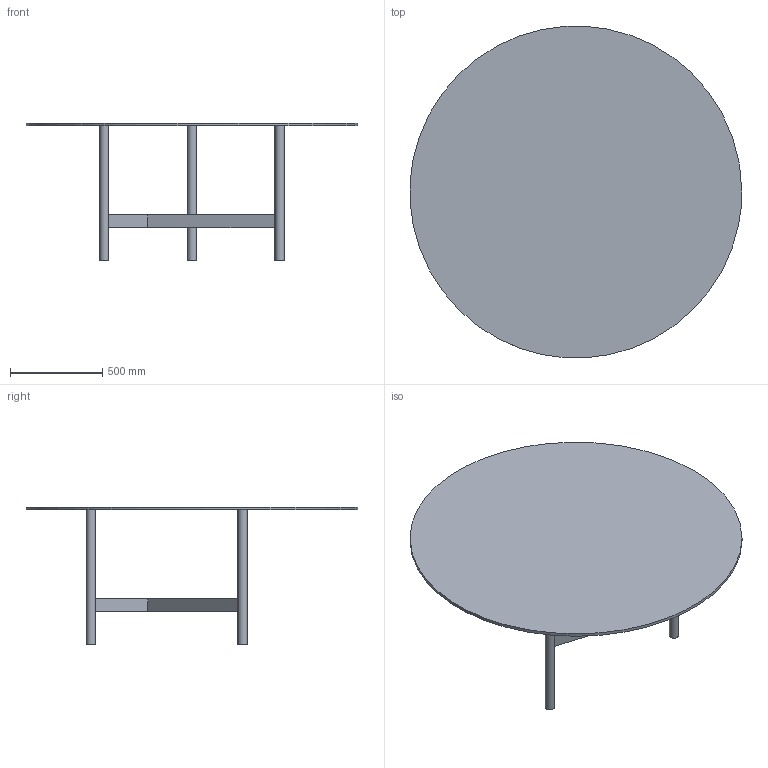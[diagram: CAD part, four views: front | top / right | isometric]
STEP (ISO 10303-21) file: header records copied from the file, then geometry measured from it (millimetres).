
FILE_DESCRIPTION(/* description */ (''),/* implementation_level */ '2;1');
FILE_NAME(/* name */ 'AGOS-D~1',/* time_stamp */ '2022-10-18T18:20:27+02:00',/* author */ (''),/* organization */ (''),/* preprocessor_version */ 'ST-DEVELOPER v16.5',/* originating_system */ '',/* authorisation */ '');
FILE_SCHEMA (('AUTOMOTIVE_DESIGN'));
Length unit declared in the file: millimetre
Products named in the file (1): Document
Bounding box: 1798.29 x 1796.6 x 748.15 mm (x, y, z)
Volume: 48463746.7 mm3; surface area: 5937049.2 mm2
Topology: 5 solids, 5 shells, 26 faces, 48 edges, 32 vertices
Faces by surface type: plane 22, bspline 4
Entity records: 718 total; most frequent: CARTESIAN_POINT 280, ORIENTED_EDGE 96, EDGE_CURVE 48, B_SPLINE_CURVE_WITH_KNOTS 36, VERTEX_POINT 32, EDGE_LOOP 28, ADVANCED_FACE 26, FACE_OUTER_BOUND 26
